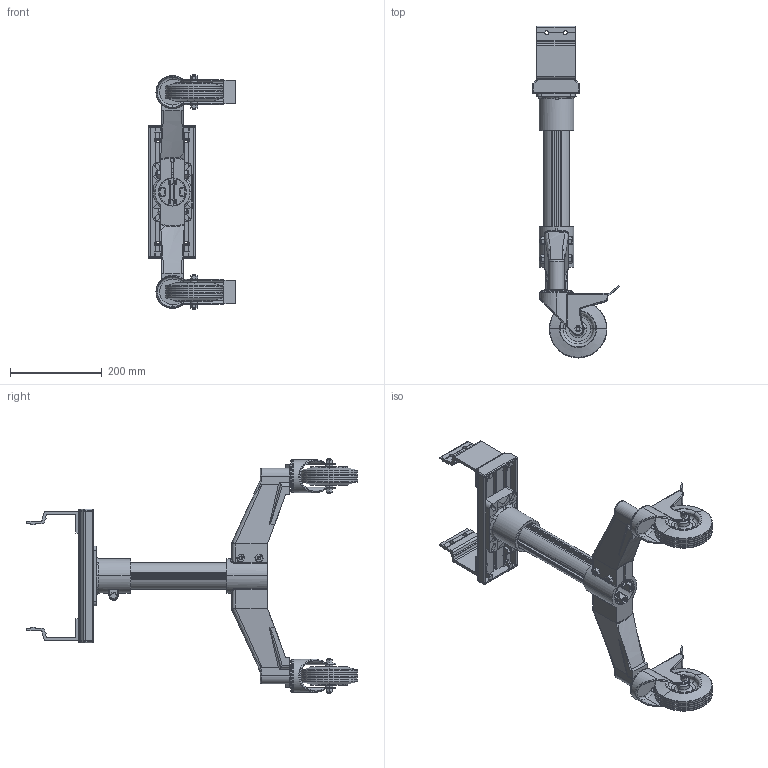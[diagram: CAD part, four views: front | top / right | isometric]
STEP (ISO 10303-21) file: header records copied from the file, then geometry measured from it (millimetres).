
FILE_DESCRIPTION (( 'STEP AP214' ), '1' );
FILE_NAME ('F2-750-P2R.STEP', '2010-03-11T09:15:33', ( '.' ), ( '' ), 'SwSTEP 2.0', 'SolidWorks 2009', '' );
FILE_SCHEMA (( 'AUTOMOTIVE_DESIGN' ));
Length unit declared in the file: millimetre
Products named in the file (1): F2-750-P2R
Bounding box: 188.97 x 721.98 x 509.6 mm (x, y, z)
Surface area: 755038.7 mm2 (no closed solid volume)
Topology: 0 solids, 12 shells, 1050 faces, 2962 edges, 1919 vertices
Faces by surface type: plane 438, cylinder 371, torus 147, bspline 56, cone 34, sphere 4
Entity records: 55870 total; most frequent: CARTESIAN_POINT 17623, DIRECTION 5637, ORIENTED_EDGE 5350, EDGE_CURVE 2955, AXIS2_PLACEMENT_3D 2020, VERTEX_POINT 1919, LINE 1597, VECTOR 1597
